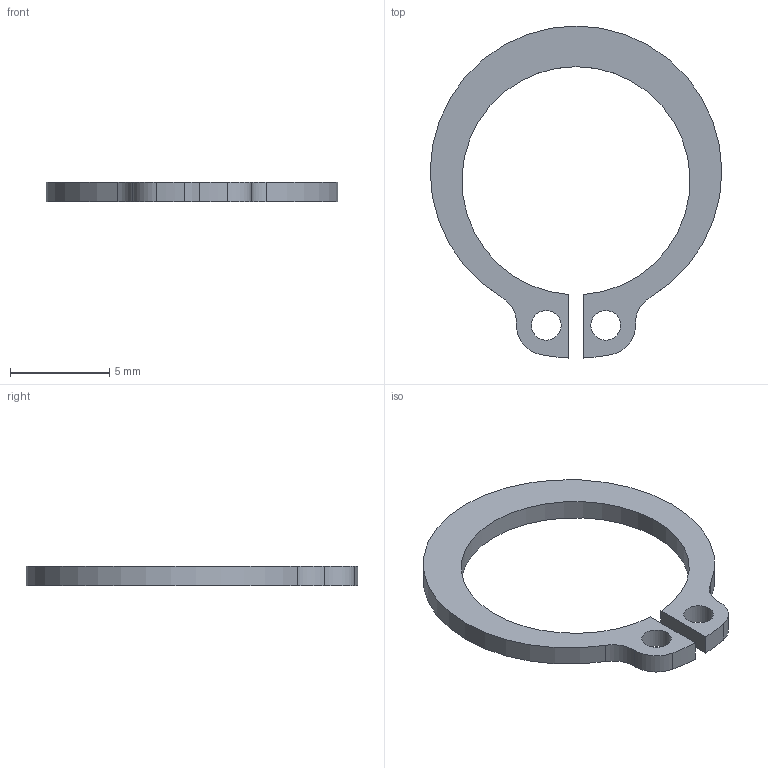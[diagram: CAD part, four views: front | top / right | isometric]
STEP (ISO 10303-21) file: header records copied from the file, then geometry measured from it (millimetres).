
FILE_DESCRIPTION(/* description */ ('리테이닝 링(C형)'),/* implementation_level */ '2;1');
FILE_NAME(/* name */ '',/* time_stamp */ '2026-07-31T13:50:12+09:00',/* author */ ('jhkim'),/* organization */ (''),/* preprocessor_version */ 'ST-DEVELOPER v20.1',/* originating_system */ 'Autodesk Inventor 2027',/* authorisation */ '');
FILE_SCHEMA (('AUTOMOTIVE_DESIGN { 1 0 10303 214 3 1 1 }'));
Length unit declared in the file: millimetre
Products named in the file (1): C형 멈춤링 축용 12
Bounding box: 14.7 x 16.74 x 1 mm (x, y, z)
Volume: 72.2 mm3; surface area: 244.2 mm2
Topology: 1 solids, 1 shells, 14 faces, 36 edges, 24 vertices
Faces by surface type: cylinder 10, plane 4
Full cylindrical faces by diameter (mm): 1.5 x2
Entity records: 491 total; most frequent: DIRECTION 86, CARTESIAN_POINT 75, ORIENTED_EDGE 72, EDGE_CURVE 36, AXIS2_PLACEMENT_3D 35, VERTEX_POINT 24, CIRCLE 20, EDGE_LOOP 18
